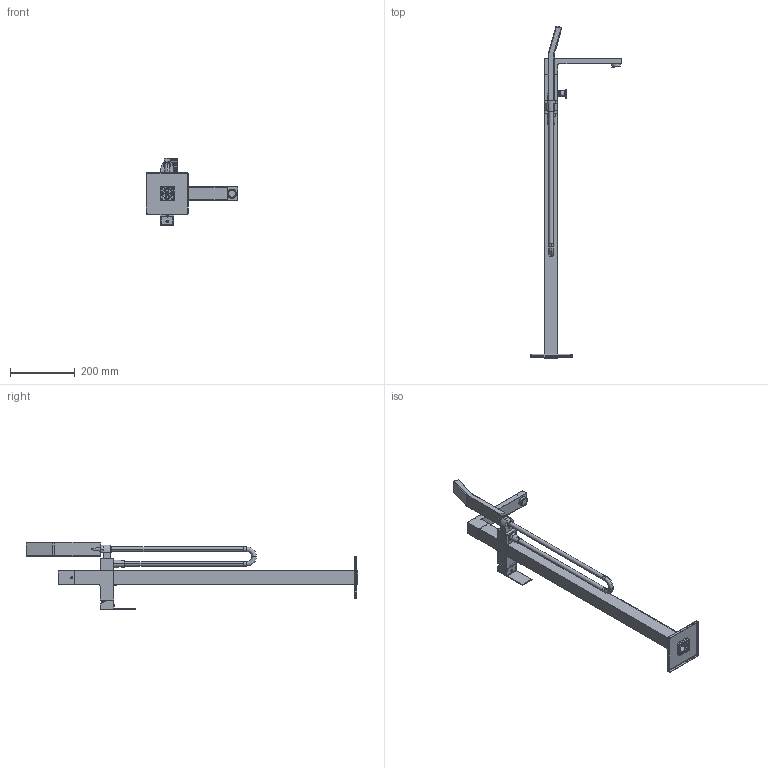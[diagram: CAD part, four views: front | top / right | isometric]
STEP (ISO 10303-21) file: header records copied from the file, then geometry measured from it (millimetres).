
FILE_DESCRIPTION((''),'2;1');
FILE_NAME('752228C_24-12-13_ASM','2024-12-13T',('cae-en79'),(''),'PRO/ENGINEER BY PARAMETRIC TECHNOLOGY CORPORATION, 2010280','PRO/ENGINEER BY PARAMETRIC TECHNOLOGY CORPORATION, 2010280','');
FILE_SCHEMA(('CONFIG_CONTROL_DESIGN'));
Length unit declared in the file: millimetre
Products named in the file (30): 2228__-1220; M5X10________; 2223_; 3064_; 1129__; 2072______; 2581____; 2180__; ________A; PRODUCT_3428; 53534______-1275; 53534______-1280; 2228__-1285; 2180____; M28X1__________TD; M28X1__; 2223____; 2280____; 2223_______ASM; 2839____-1170; 2651______; 2198__; M4__; 2647__; 2839__; 2839______; 2839____-1155_ASM; ASSEM1_ASM; _752228C_24-12-13; 752228C_24-12-13_ASM
Assembly tree (29 placements, depth 4):
  752228C_24-12-13_ASM
    ASSEM1_ASM
      2228__-1220
      M5X10________
      2223_
      3064_
      1129__
      2072______
      2581____
      2180__
      ________A
      PRODUCT_3428
      53534______-1275
      53534______-1280
      2228__-1285
      2180____
      M28X1__________TD
      M28X1__
      2223_______ASM
        2223____
        2280____
      2839____-1155_ASM
        2839____-1170
        2651______
        2198__
        M4__
        2647__
        2839__
        2839______
    _752228C_24-12-13
Bounding box: 283.79 x 1026.9 x 208.5 mm (x, y, z)
Volume: 813549.8 mm3; surface area: 573923.3 mm2
Topology: 24 solids, 29 shells, 1371 faces, 3433 edges, 2178 vertices
Faces by surface type: cylinder 553, plane 470, cone 194, torus 96, bspline 38, sphere 14, extrusion 4, revolution 2
Entity records: 51404 total; most frequent: CARTESIAN_POINT 17535, DIRECTION 7354, ORIENTED_EDGE 6724, EDGE_CURVE 3363, AXIS2_PLACEMENT_3D 2911, VERTEX_POINT 2178, EDGE_LOOP 1596, VECTOR 1530
